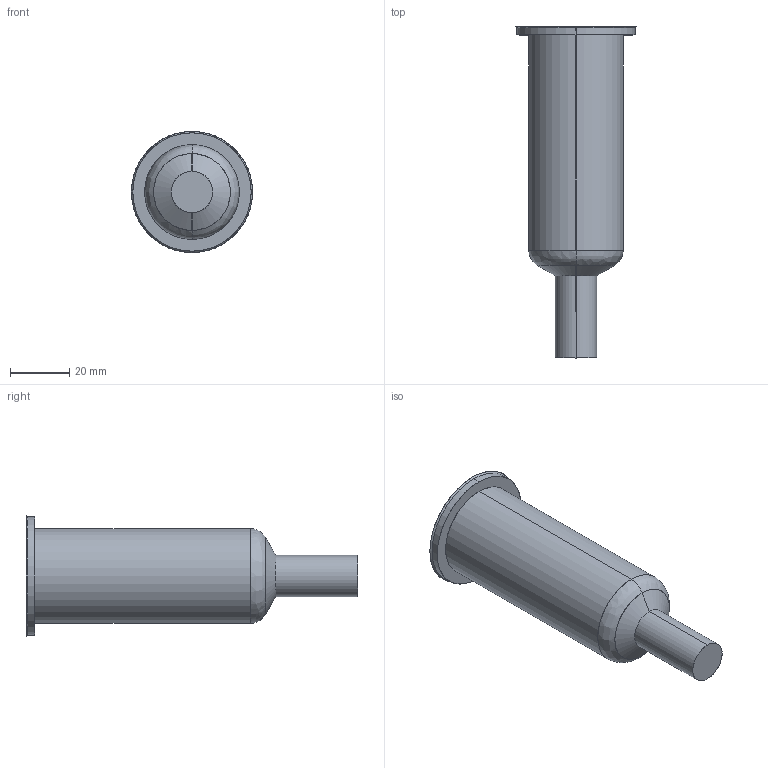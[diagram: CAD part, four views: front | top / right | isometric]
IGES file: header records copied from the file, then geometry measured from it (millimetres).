
Start section: SolidWorks IGES file using analytic representation for surfaces
Global section: file name: C:\Documents and Settings\ws-20\Desktop\TEM\Sede UGEP4102-M-A C-84 L-104 P-25.IGS; native system: SolidWorks 2012; preprocessor: SolidWorks 2012; author: ws-20; date: 120426.091335; units: millimetre
Bounding box: 41 x 112.21 x 41 mm (x, y, z)
Surface area: 11893 mm2 (no closed solid volume)
Topology: 0 solids, 0 shells, 15 faces, 272 edges, 272 vertices
Faces by surface type: revolution 10, bspline 5
